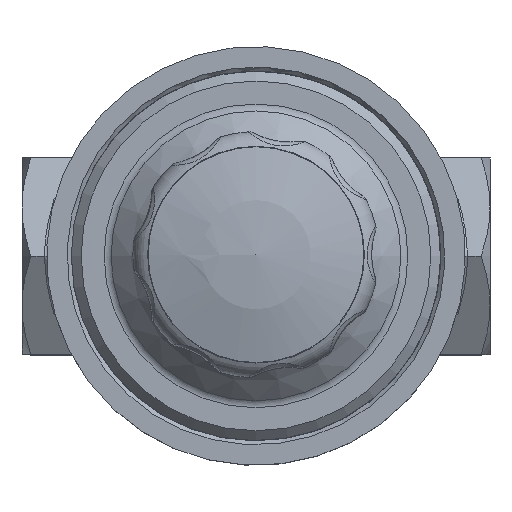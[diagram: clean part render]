
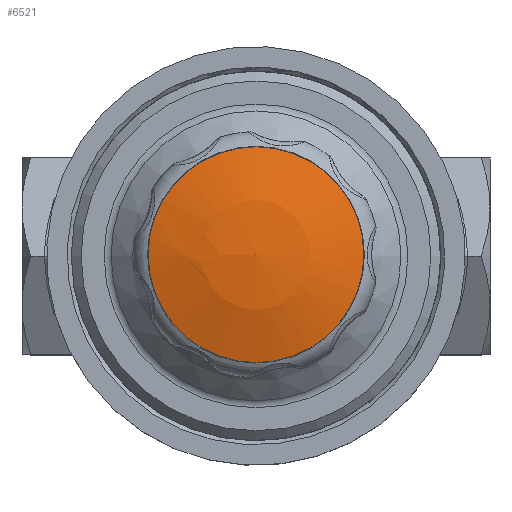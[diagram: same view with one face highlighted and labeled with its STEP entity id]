
A CAD part, top view. The second image highlights one B-rep face of the part: STEP entity #6521.
In plain terms, the highlighted spherical face has radius 70.266 mm.
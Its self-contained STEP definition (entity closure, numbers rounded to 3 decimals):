
#13=SPHERICAL_SURFACE('',#7099,70.266);
#1190=FACE_OUTER_BOUND('',#1607,.T.);
#1607=EDGE_LOOP('',(#5295,#5296,#5297,#5298));
#2688=CIRCLE('',#7096,21.9);
#2689=CIRCLE('',#7097,21.9);
#2691=CIRCLE('',#7100,70.266);
#3217=VERTEX_POINT('',#12391);
#3218=VERTEX_POINT('',#12392);
#3220=VERTEX_POINT('',#12399);
#3976=EDGE_CURVE('',#3217,#3218,#2688,.T.);
#3977=EDGE_CURVE('',#3218,#3217,#2689,.T.);
#3980=EDGE_CURVE('',#3220,#3217,#2691,.T.);
#5295=ORIENTED_EDGE('',*,*,#3976,.T.);
#5296=ORIENTED_EDGE('',*,*,#3977,.T.);
#5297=ORIENTED_EDGE('',*,*,#3980,.F.);
#5298=ORIENTED_EDGE('',*,*,#3980,.T.);
#6521=ADVANCED_FACE('',(#1190),#13,.T.);
#7096=AXIS2_PLACEMENT_3D('',#12393,#8298,#8299);
#7097=AXIS2_PLACEMENT_3D('',#12394,#8300,#8301);
#7099=AXIS2_PLACEMENT_3D('',#12398,#8305,#8306);
#7100=AXIS2_PLACEMENT_3D('',#12400,#8307,#8308);
#8298=DIRECTION('center_axis',(0.,0.,1.));
#8299=DIRECTION('ref_axis',(-1.,0.,0.));
#8300=DIRECTION('center_axis',(0.,0.,1.));
#8301=DIRECTION('ref_axis',(-1.,0.,0.));
#8305=DIRECTION('center_axis',(0.,0.,1.));
#8306=DIRECTION('ref_axis',(1.,0.,0.));
#8307=DIRECTION('center_axis',(0.,-1.,0.));
#8308=DIRECTION('ref_axis',(-1.,0.,0.));
#12391=CARTESIAN_POINT('',(-23.9,0.,238.));
#12392=CARTESIAN_POINT('',(19.9,0.,238.));
#12393=CARTESIAN_POINT('Origin',(-2.,0.,238.));
#12394=CARTESIAN_POINT('Origin',(-2.,0.,238.));
#12398=CARTESIAN_POINT('Origin',(-2.,0.,171.234));
#12399=CARTESIAN_POINT('',(-2.,0.,241.5));
#12400=CARTESIAN_POINT('Origin',(-2.,0.,171.234));
